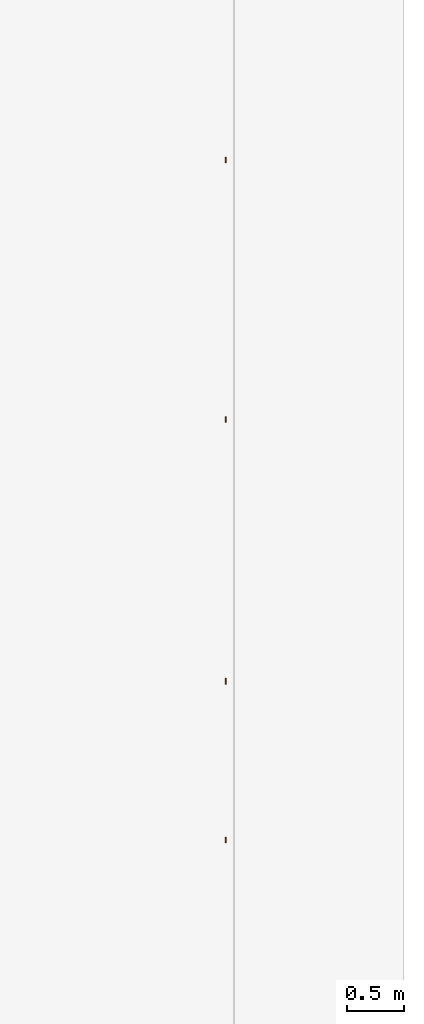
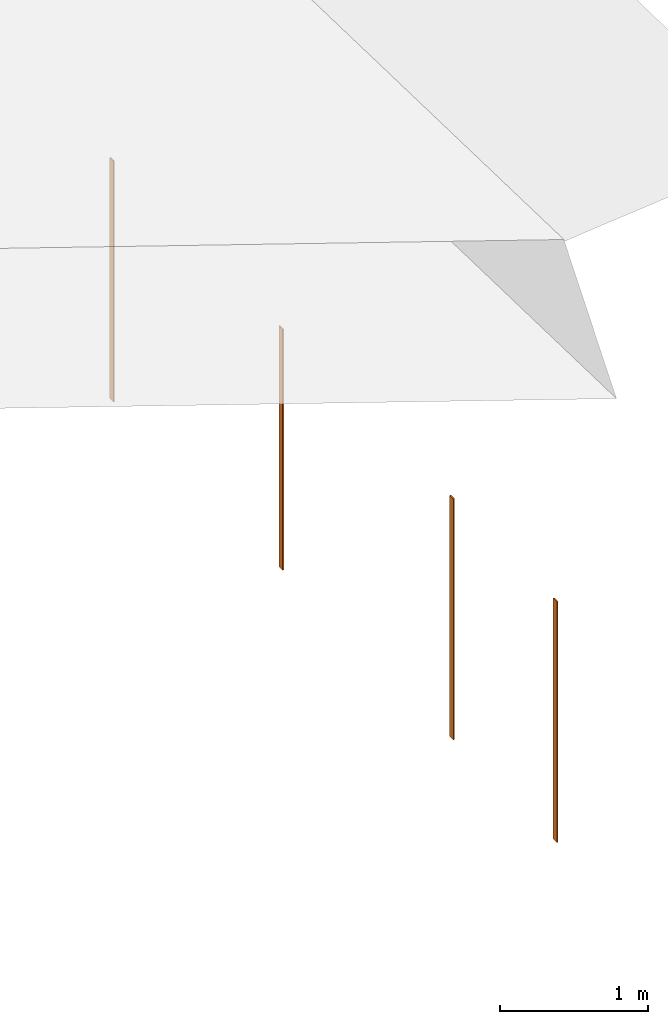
# One storey, part 4 of 7: 4 proxies.
"""IFC2X3 building model written with IfcOpenShell, lengths in millimetres."""

from ifc_helpers import new_model, entity, si_unit, converted_unit, derived_unit, direction, frame, frame_2d, origin, place, context, subcontext, project, spatial, rectangle, extrude, source, transform, mapped, material, type_object, type_shapes, element, save


model = new_model("IFC2X3")

# Units and contexts
model_context = context("Model", 3, precision=0.01, world=origin(), true_north=direction((0.7716245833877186, 0.6360782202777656)))
body_context = subcontext(model_context, "Body", "Model", "MODEL_VIEW")
ifc_project = project(units=[si_unit("LENGTHUNIT", "METRE", prefix="MILLI"), si_unit("AREAUNIT", "SQUARE_METRE"), converted_unit("PLANEANGLEUNIT", "DEGREE", entity("IfcPlaneAngleMeasure", 0.017453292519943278), si_unit("PLANEANGLEUNIT", "RADIAN"), dimensions=[0, 0, 0, 0, 0, 0, 0]), derived_unit("THERMALTRANSMITTANCEUNIT", [(si_unit("MASSUNIT", "GRAM", prefix="KILO"), 1), (si_unit("THERMODYNAMICTEMPERATUREUNIT", "KELVIN"), -1), (si_unit("TIMEUNIT", "SECOND"), -3)])], contexts=[model_context])

# Site, building, storey
site_placement = place(None, origin())
site = spatial("IfcSite", under=ifc_project, at=site_placement, Name="Default", CompositionType="ELEMENT")
building_placement = place(site_placement, origin())
building = spatial("IfcBuilding", under=site, at=building_placement, CompositionType="ELEMENT")
storey_placement = place(building_placement, frame((0.0, 0.0, 37100.0)))
storey = spatial("IfcBuildingStorey", under=building, at=storey_placement, Name="PLAN 03 (EKS. TAK)", CompositionType="ELEMENT", Elevation=37100.0)

# Proxies
ifc_material = material(Name="Aluminum")
building_element_proxy_type = type_object("IfcBuildingElementProxyType", Name="Fasade profil, VER:Fasade profil 100x50", PredefinedType="NOTDEFINED", material=ifc_material)
shared_shape = source(origin(), body_context, "Body", "SweptSolid", [
    extrude(rectangle(XDim=50.000000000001, YDim=10.000000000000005, at=frame_2d((-2.1316282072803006e-14, 0.0), x_axis=(1.0, 0.0))), frame((25.0, -5.0, 0.0), z_axis=(0.0, 0.0, 1.0), x_axis=(-1.0, 0.0, 0.0)), (0.0, 0.0, 1.0), 1989.9999999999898),
])
type_shapes(building_element_proxy_type, [shared_shape])
for number, where, z_axis, x_axis, name in (
    (1, (277990.257347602, 60479.47030222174, -3810.0), (0.0, 0.0, 1.0), (0.0, 1.0, 0.0), "Fasade profil, VER:Fasade profil 100x50"),
    (2, (277990.257347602, 61880.25555007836, -3810.0), (0.0, 0.0, 1.0), (0.0, 1.0, 0.0), "Fasade profil, VER:Fasade profil 100x50"),
    (3, (277990.257347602, 64189.50163955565, -3810.0), (0.0, 0.0, 1.0), (0.0, 1.0, 0.0), "Fasade profil, VER:Fasade profil 100x50"),
    (4, (277990.257347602, 66479.50163955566, -3810.0), (0.0, 0.0, 1.0), (0.0, 1.0, 0.0), "Fasade profil, VER:Fasade profil 100x50"),
):
    element("IfcBuildingElementProxy", number, at=place(storey_placement, frame(where, z_axis=z_axis, x_axis=x_axis)), inside=storey, type_object=building_element_proxy_type, material=ifc_material, Name=name, ObjectType="Fasade profil, VER:Fasade profil 100x50", context=body_context, shape_type="MappedRepresentation", body=[
        mapped(shared_shape, transform((0.0, 0.0, 0.0), scale=1.0)),
    ])

save(model, "model.ifc")
